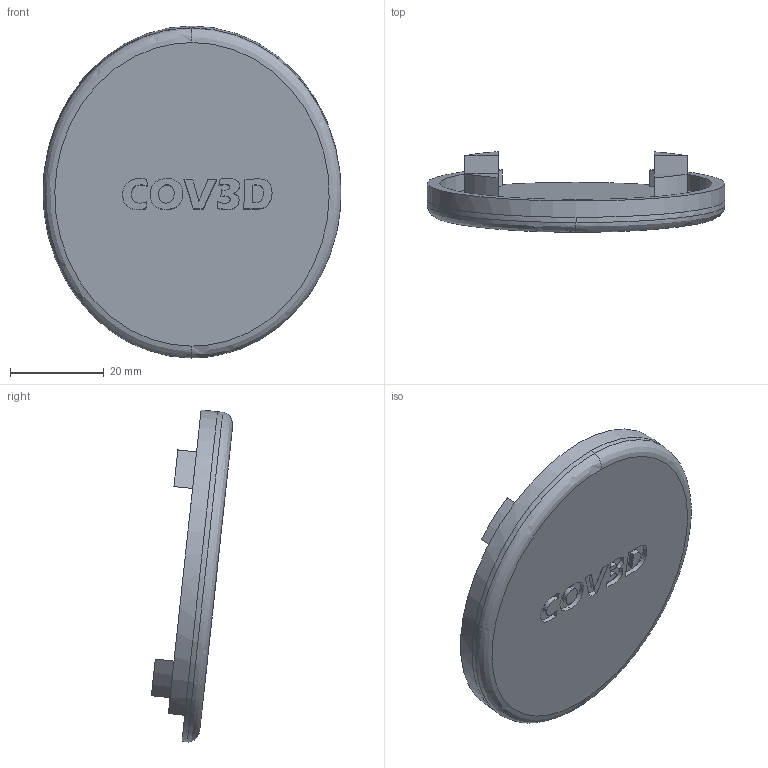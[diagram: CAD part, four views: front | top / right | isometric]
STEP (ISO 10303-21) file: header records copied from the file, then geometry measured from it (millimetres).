
FILE_DESCRIPTION(/* description */ (''),/* implementation_level */ '2;1');
FILE_NAME(/* name */ 'XL-NAR~1',/* time_stamp */ '2020-04-10T21:47:31+03:00',/* author */ (''),/* organization */ (''),/* preprocessor_version */ 'ST-DEVELOPER v16.5',/* originating_system */ '',/* authorisation */ '');
FILE_SCHEMA (('AUTOMOTIVE_DESIGN'));
Length unit declared in the file: millimetre
Products named in the file (1): Document
Bounding box: 63.39 x 17.28 x 70.65 mm (x, y, z)
Volume: 14461.6 mm3; surface area: 9645.3 mm2
Topology: 1 solids, 1 shells, 67 faces, 158 edges, 104 vertices
Faces by surface type: bspline 44, plane 23
Entity records: 2836 total; most frequent: CARTESIAN_POINT 1768, ORIENTED_EDGE 316, EDGE_CURVE 158, B_SPLINE_CURVE_WITH_KNOTS 131, VERTEX_POINT 104, EDGE_LOOP 78, ADVANCED_FACE 67, FACE_OUTER_BOUND 67
